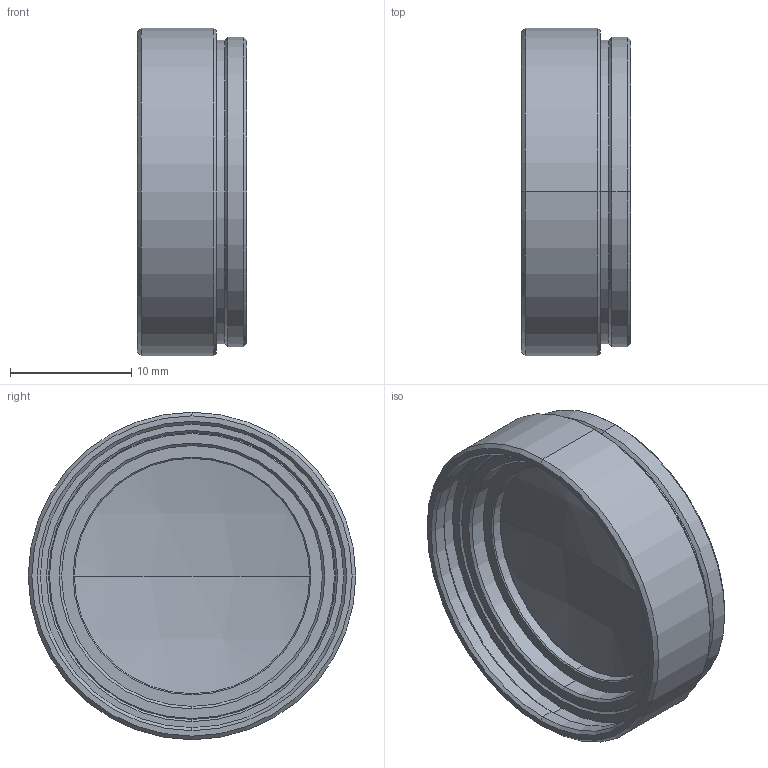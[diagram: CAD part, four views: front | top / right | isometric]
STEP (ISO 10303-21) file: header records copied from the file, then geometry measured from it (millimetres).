
FILE_DESCRIPTION (( 'STEP AP203' ), '1' );
FILE_NAME ('VSZ-07X.STEP', '2013-01-31T02:53:52', ( 'VS Technology' ), ( '' ), 'SwSTEP 2.0', 'SolidWorks 2012', '' );
FILE_SCHEMA (( 'CONFIG_CONTROL_DESIGN' ));
Length unit declared in the file: millimetre
Products named in the file (1): VSZ-07X
Bounding box: 9 x 27 x 27 mm (x, y, z)
Volume: 2490.8 mm3; surface area: 2374.8 mm2
Topology: 1 solids, 1 shells, 51 faces, 102 edges, 60 vertices
Faces by surface type: cone 24, cylinder 16, plane 7, sphere 4
Entity records: 1403 total; most frequent: DIRECTION 268, CARTESIAN_POINT 214, ORIENTED_EDGE 204, AXIS2_PLACEMENT_3D 114, EDGE_CURVE 102, CIRCLE 62, VERTEX_POINT 60, EDGE_LOOP 58
